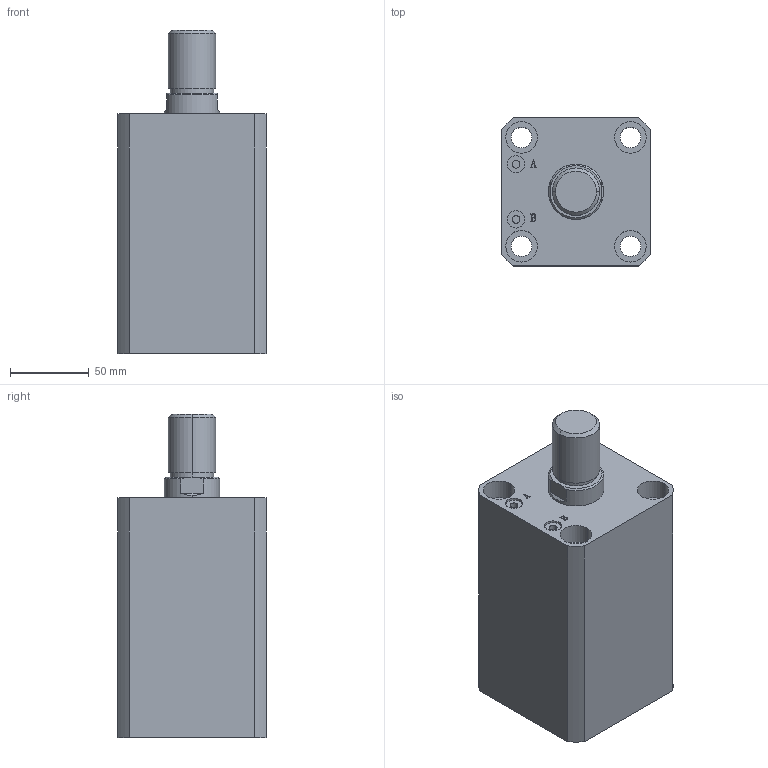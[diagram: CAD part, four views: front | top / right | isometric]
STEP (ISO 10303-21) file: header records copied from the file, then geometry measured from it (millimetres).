
FILE_DESCRIPTION (( 'STEP AP203' ), '1' );
FILE_NAME ('HTB-SDMA63-85W.STEP', '2019-10-08T01:14:57', ( '微软用户' ), ( '微软中国' ), 'SwSTEP 2.0', 'SolidWorks 2012', '' );
FILE_SCHEMA (( 'CONFIG_CONTROL_DESIGN' ));
Length unit declared in the file: millimetre
Products named in the file (3): HTB-SDMA63-85W; HTB-SDMA63-85W活塞杆; HTB-SDMA63-85掛极
Assembly tree (2 placements, depth 2):
  HTB-SDMA63-85W
    HTB-SDMA63-85掛极
    HTB-SDMA63-85W活塞杆
Bounding box: 94 x 94 x 205 mm (x, y, z)
Volume: 1083741.1 mm3; surface area: 154901.8 mm2
Topology: 2 solids, 2 shells, 141 faces, 337 edges, 222 vertices
Faces by surface type: plane 67, cylinder 48, bspline 16, torus 6, cone 4
Entity records: 5176 total; most frequent: CARTESIAN_POINT 1593, ORIENTED_EDGE 674, DIRECTION 669, EDGE_CURVE 337, AXIS2_PLACEMENT_3D 242, VERTEX_POINT 222, LINE 185, VECTOR 185
